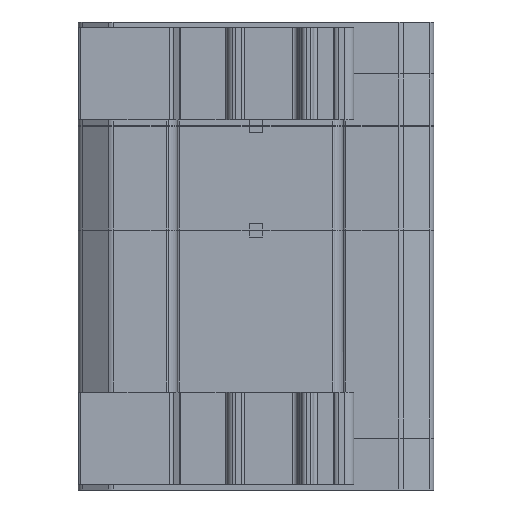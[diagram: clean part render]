
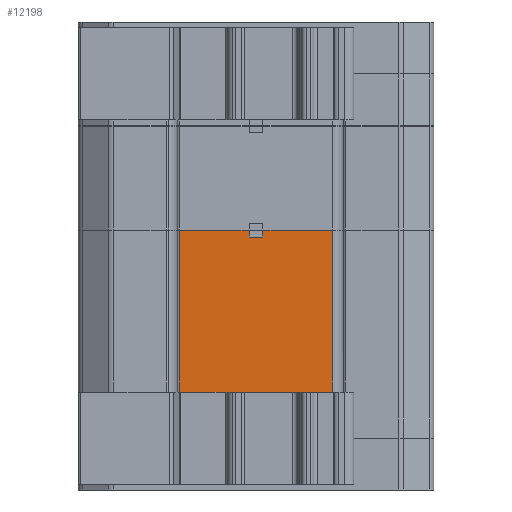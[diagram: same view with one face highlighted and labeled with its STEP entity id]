
A CAD part, front view. The second image highlights one B-rep face of the part: STEP entity #12198.
In plain terms, the highlighted planar face has unit normal (0, -1, 0).
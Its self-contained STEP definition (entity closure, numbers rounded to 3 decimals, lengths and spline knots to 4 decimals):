
#775=DIRECTION('',(1.,0.,0.));
#776=VECTOR('',#775,0.5935);
#777=CARTESIAN_POINT('',(-4.0115,-1.9584,0.));
#778=LINE('',#777,#776);
#971=DIRECTION('',(1.,0.,0.));
#972=VECTOR('',#971,0.5935);
#973=CARTESIAN_POINT('',(-3.2998,-1.9584,0.));
#974=LINE('',#973,#972);
#1039=DIRECTION('',(-1.,0.,0.));
#1040=VECTOR('',#1039,1.3051);
#1041=CARTESIAN_POINT('',(-2.7063,-1.9584,
-1.3794));
#1042=LINE('',#1041,#1040);
#1043=DIRECTION('',(0.,0.,1.));
#1044=VECTOR('',#1043,0.0591);
#1045=CARTESIAN_POINT('',(-3.4179,-1.9584,
-0.0591));
#1046=LINE('',#1045,#1044);
#1047=DIRECTION('',(-1.,0.,0.));
#1048=VECTOR('',#1047,0.1181);
#1049=CARTESIAN_POINT('',(-3.2998,-1.9584,
-0.0591));
#1050=LINE('',#1049,#1048);
#1051=DIRECTION('',(0.,0.,-1.));
#1052=VECTOR('',#1051,0.0591);
#1053=CARTESIAN_POINT('',(-3.2998,-1.9584,0.));
#1054=LINE('',#1053,#1052);
#1068=DIRECTION('',(0.,0.,1.));
#1069=VECTOR('',#1068,1.3794);
#1070=CARTESIAN_POINT('',(-4.0115,-1.9584,
-1.3794));
#1071=LINE('',#1070,#1069);
#1193=DIRECTION('',(0.,0.,-1.));
#1194=VECTOR('',#1193,1.3794);
#1195=CARTESIAN_POINT('',(-2.7063,-1.9584,0.));
#1196=LINE('',#1195,#1194);
#8722=CARTESIAN_POINT('',(-4.0115,-1.9584,0.));
#8724=VERTEX_POINT('',#8722);
#8819=CARTESIAN_POINT('',(-2.7063,-1.9584,0.));
#8820=VERTEX_POINT('',#8819);
#8821=CARTESIAN_POINT('',(-3.2998,-1.9584,0.));
#8822=VERTEX_POINT('',#8821);
#8827=CARTESIAN_POINT('',(-3.4179,-1.9584,0.));
#8828=VERTEX_POINT('',#8827);
#8935=CARTESIAN_POINT('',(-3.4179,-1.9584,
-0.0591));
#8936=VERTEX_POINT('',#8935);
#8937=CARTESIAN_POINT('',(-3.2998,-1.9584,
-0.0591));
#8938=VERTEX_POINT('',#8937);
#10825=CARTESIAN_POINT('',(-4.0115,-1.9584,
-1.3794));
#10827=VERTEX_POINT('',#10825);
#10882=CARTESIAN_POINT('',(-2.7063,-1.9584,
-1.3794));
#10883=VERTEX_POINT('',#10882);
#12178=CARTESIAN_POINT('',(-2.5941,-1.9584,0.));
#12179=DIRECTION('',(0.,-1.,0.));
#12180=DIRECTION('',(-1.,0.,0.));
#12181=AXIS2_PLACEMENT_3D('',#12178,#12179,#12180);
#12182=PLANE('',#12181);
#12183=ORIENTED_EDGE('',*,*,#11803,.T.);
#12185=ORIENTED_EDGE('',*,*,#12184,.T.);
#12186=ORIENTED_EDGE('',*,*,#12036,.T.);
#12188=ORIENTED_EDGE('',*,*,#12187,.F.);
#12190=ORIENTED_EDGE('',*,*,#12189,.F.);
#12192=ORIENTED_EDGE('',*,*,#12191,.F.);
#12193=ORIENTED_EDGE('',*,*,#12131,.T.);
#12195=ORIENTED_EDGE('',*,*,#12194,.T.);
#12196=EDGE_LOOP('',(#12183,#12185,#12186,#12188,#12190,#12192,#12193,#12195));
#12197=FACE_OUTER_BOUND('',#12196,.F.);
#12198=ADVANCED_FACE('',(#12197),#12182,.T.);
#11803=EDGE_CURVE('',#10883,#10827,#1042,.T.);
#12036=EDGE_CURVE('',#8724,#8828,#778,.T.);
#12131=EDGE_CURVE('',#8822,#8820,#974,.T.);
#12184=EDGE_CURVE('',#10827,#8724,#1071,.T.);
#12187=EDGE_CURVE('',#8936,#8828,#1046,.T.);
#12189=EDGE_CURVE('',#8938,#8936,#1050,.T.);
#12191=EDGE_CURVE('',#8822,#8938,#1054,.T.);
#12194=EDGE_CURVE('',#8820,#10883,#1196,.T.);
